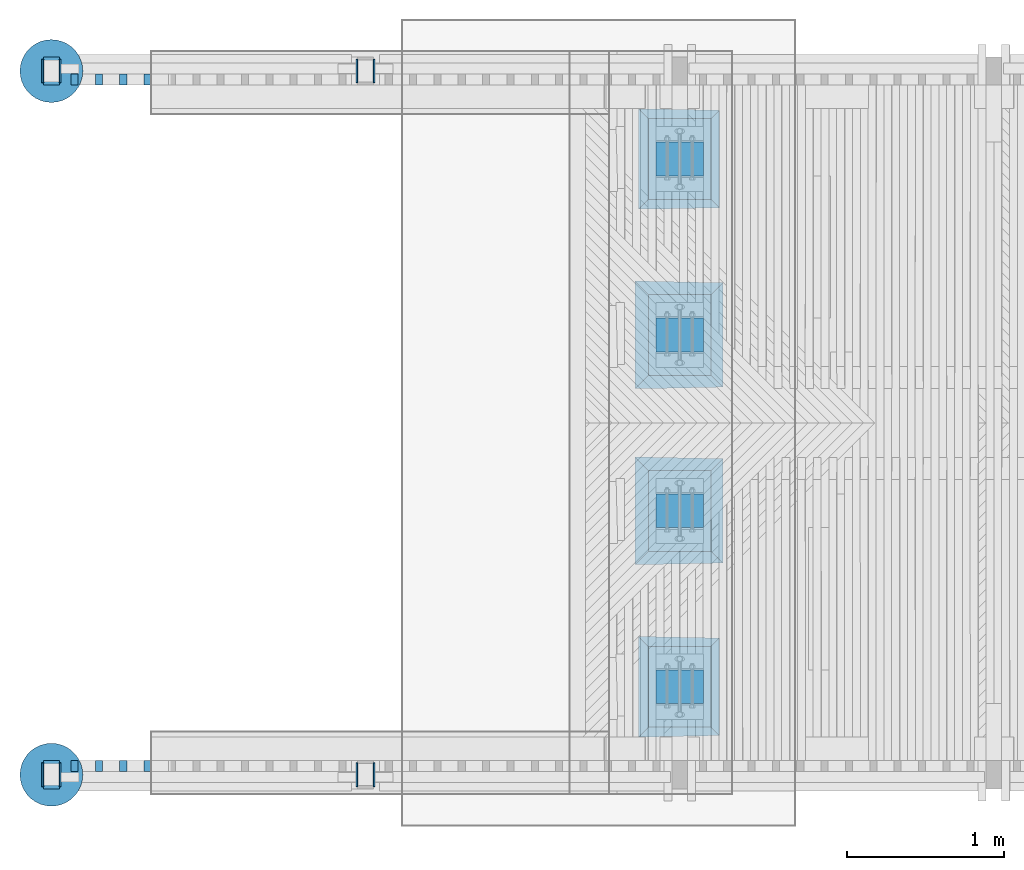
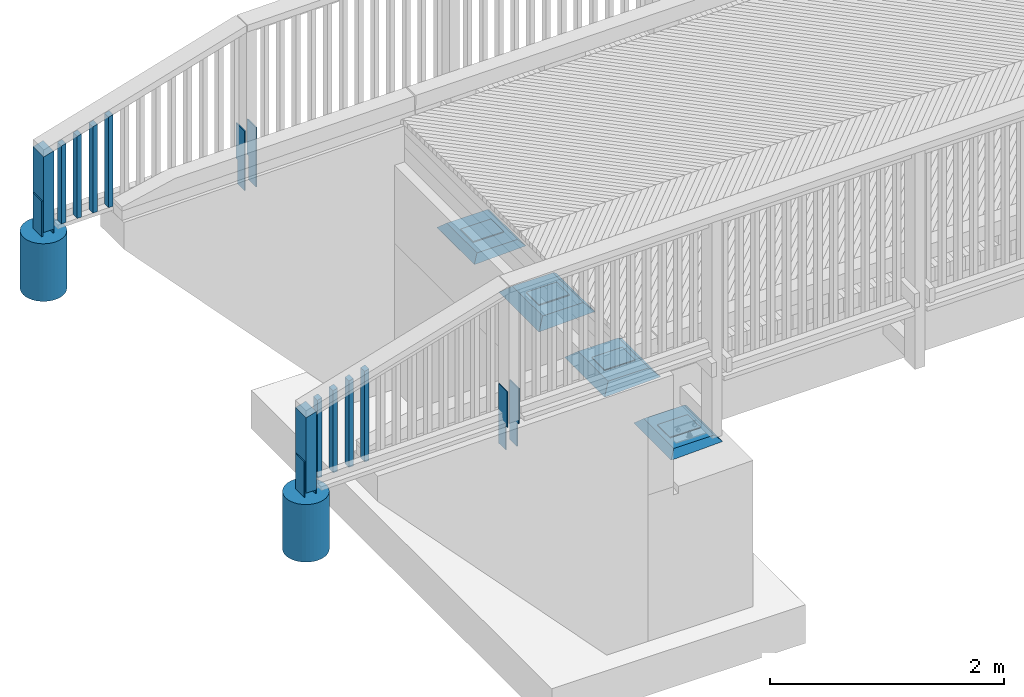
# One storey, part 12 of 52: 28 columns.
"""IFC2X3 building model written with IfcOpenShell, lengths in millimetres."""

import ifcopenshell
import ifcopenshell.guid

model = None  # the IFC model being written
_history = None  # IfcOwnerHistory: only IFC2X3 demands one
_inside = {}  # id of a spatial element -> (the spatial element, [elements in it])
_under = {}  # id of a project, library or spatial element -> (it, [spatial elements below it])
_declared = {}  # id of a project -> (the project, [libraries it declares])
_typed = {}  # id of a type object -> (the type object, [elements of that type])
_made_of = {}  # id of a material, layer set ... -> (it, [elements and type objects made of it])


def new_model(schema):
    """Start an empty IFC model of exactly this schema.

    Asked for "IFC4X3", IfcOpenShell would pick the latest addendum, in which some entities
    have other attributes; the version numbers below select the first issue.
    IFC2X3 requires an IfcOwnerHistory on every rooted entity: one is made here for all.
    """
    global model, _history
    if schema == "IFC4X3":
        model = ifcopenshell.file(schema_version=(4, 3, 0, 0))
    else:
        model = ifcopenshell.file(schema=schema)
    _inside.clear()
    _under.clear()
    _declared.clear()
    _typed.clear()
    _made_of.clear()
    _history = None
    if model.schema == "IFC2X3":
        org = make("IfcOrganization", Name="unknown")
        user = make(
            "IfcPersonAndOrganization",
            ThePerson=make("IfcPerson", FamilyName="unknown"),
            TheOrganization=org,
        )
        app = make(
            "IfcApplication",
            ApplicationDeveloper=org,
            Version="unknown",
            ApplicationFullName="unknown",
            ApplicationIdentifier="unknown",
        )
        _history = make(
            "IfcOwnerHistory",
            OwningUser=user,
            OwningApplication=app,
            ChangeAction="ADDED",
            CreationDate=0,
        )
    return model


def make(cls, **values):
    """One entity of the class cls with the attributes given. An attribute that is None is left unset."""
    return model.create_entity(
        cls, **{name: value for name, value in values.items() if value is not None}
    )


def rooted(cls, **values):
    """An entity with a GlobalId (a new one), such as an element, a storey or a relation."""
    return make(cls, GlobalId=ifcopenshell.guid.new(), OwnerHistory=_history, **values)


def si_unit(unit_type, name, prefix=None):
    """IfcSIUnit, for example si_unit("LENGTHUNIT", "METRE", prefix="MILLI")."""
    return make("IfcSIUnit", UnitType=unit_type, Prefix=prefix, Name=name)


def assignment(units):
    """IfcUnitAssignment: the units of a project."""
    return None if units is None else make("IfcUnitAssignment", Units=units)


def point(xyz):
    """IfcCartesianPoint."""
    return None if xyz is None else make("IfcCartesianPoint", Coordinates=xyz)


def direction(xyz):
    """IfcDirection."""
    return None if xyz is None else make("IfcDirection", DirectionRatios=xyz)


def frame(location, z_axis=None, x_axis=None):
    """IfcAxis2Placement3D, a coordinate frame: its origin and axes. An axis left out is left unset."""
    return make(
        "IfcAxis2Placement3D",
        Location=point(location),
        Axis=direction(z_axis),
        RefDirection=direction(x_axis),
    )


def origin_with_axes():
    """The frame at (0, 0, 0) with the z axis (0, 0, 1) and the x axis (1, 0, 0) written out."""
    return frame((0.0, 0.0, 0.0), z_axis=(0.0, 0.0, 1.0), x_axis=(1.0, 0.0, 0.0))


def place(relative_to, where):
    """IfcLocalPlacement: puts the frame where relative to a parent placement (None: the world)."""
    return make(
        "IfcLocalPlacement", PlacementRelTo=relative_to, RelativePlacement=where
    )


def context(
    kind, dimensions, precision=None, world=None, true_north=None, identifier=None
):
    """IfcGeometricRepresentationContext, for example the 3D "Model" context."""
    return make(
        "IfcGeometricRepresentationContext",
        ContextIdentifier=identifier,
        ContextType=kind,
        CoordinateSpaceDimension=dimensions,
        Precision=precision,
        WorldCoordinateSystem=world,
        TrueNorth=true_north,
    )


def subcontext(parent, identifier, kind, view, scale=None):
    """IfcGeometricRepresentationSubContext, for example "Body" below "Model"."""
    return make(
        "IfcGeometricRepresentationSubContext",
        ContextIdentifier=identifier,
        ContextType=kind,
        ParentContext=parent,
        TargetScale=scale,
        TargetView=view,
    )


def project(units=None, contexts=None):
    """IfcProject with its units and contexts."""
    return rooted(
        "IfcProject",
        Name="project",
        RepresentationContexts=contexts,
        UnitsInContext=assignment(units),
    )


def spatial(cls, under=None, at=None, **own):
    """A site, building, storey or space (cls), placed at a placement, below another one or the project."""
    s = rooted(cls, ObjectPlacement=at, **own)
    if under is not None:
        _under.setdefault(under.id(), (under, []))[1].append(s)
    return s


def faces_of(points, faces, orient=None, outer=None):
    """IfcFace entities. A face is a list of loops; a loop is a list of indices into points, from 0.

    orient and outer hold one flag for each loop. By default every Orientation is true, the
    first loop of a face is its IfcFaceOuterBound and the others are IfcFaceBound.
    """
    made = []
    for i, loops in enumerate(faces):
        bounds = []
        for j, loop in enumerate(loops):
            is_outer = j == 0 if outer is None else outer[i][j]
            bounds.append(
                make(
                    "IfcFaceOuterBound" if is_outer else "IfcFaceBound",
                    Bound=make("IfcPolyLoop", Polygon=[points[k] for k in loop]),
                    Orientation=True if orient is None else orient[i][j],
                )
            )
        made.append(make("IfcFace", Bounds=bounds))
    return made


def faceted_brep(points, faces, orient=None, outer=None, voids=None):
    """IfcFacetedBrep: a solid bounded by flat faces; with voids (closed shells), ...WithVoids."""
    shared = [point(p) for p in points]
    hull = make("IfcClosedShell", CfsFaces=faces_of(shared, faces, orient, outer))
    if voids is None:
        return make("IfcFacetedBrep", Outer=hull)
    return make(
        "IfcFacetedBrepWithVoids",
        Outer=hull,
        Voids=[
            make(cls, CfsFaces=faces_of(shared, fs, o, b)) for cls, fs, o, b in voids
        ],
    )


def shape(context_of_items, identifier, shape_type, items):
    """IfcShapeRepresentation: the items that make up one representation, for example the "Body"."""
    return make(
        "IfcShapeRepresentation",
        ContextOfItems=context_of_items,
        RepresentationIdentifier=identifier,
        RepresentationType=shape_type,
        Items=items,
    )


def material(Name=None, Category=None):
    """IfcMaterial."""
    return make("IfcMaterial", Name=Name, Category=Category)


def made_of(thing, what):
    """Note that an element or type object is made of a material, layer set ...; save() writes the relation."""
    if what is not None:
        _made_of.setdefault(what.id(), (what, []))[1].append(thing)
    return thing


def type_object(cls, material=None, **own):
    """A type object (cls), such as IfcWallType, which elements share."""
    return made_of(rooted(cls, **own), material)


def element(
    cls,
    number,
    at=None,
    inside=None,
    cuts=None,
    type_object=None,
    material=None,
    context=None,
    identifier="Body",
    shape_type=None,
    held_by="IfcProductDefinitionShape",
    body=None,
    shapes=None,
    **own,
):
    """One element of the class cls, such as IfcWall. Its Tag is "e" and its number.

    at: its placement. inside: the storey or other place that contains it. cuts: it is an
    opening in that element (IfcRelVoidsElement). A single representation is given by context,
    identifier, shape_type and body (its items); several are given by shapes. held_by: the class
    of the entity that holds the representations. save() writes the other relations.
    """
    e = rooted(cls, Tag="e%d" % number, ObjectPlacement=at, **own)
    if body is not None:
        shapes = [shape(context, identifier, shape_type, body)]
    if shapes is not None:
        e.Representation = make(held_by, Representations=shapes)
    if inside is not None:
        _inside.setdefault(inside.id(), (inside, []))[1].append(e)
    if cuts is not None:
        rooted(
            "IfcRelVoidsElement", RelatingBuildingElement=cuts, RelatedOpeningElement=e
        )
    if type_object is not None:
        _typed.setdefault(type_object.id(), (type_object, []))[1].append(e)
    return made_of(e, material)


def aggregate(whole, parts):
    """IfcRelAggregates: a whole, such as a stair, and the parts it consists of."""
    return rooted("IfcRelAggregates", RelatingObject=whole, RelatedObjects=parts)


def save(model, path):
    """Write the relations noted so far, then the file.

    IfcRelAggregates (storeys below a building ...), IfcRelContainedInSpatialStructure (elements
    in a storey), IfcRelDefinesByType, IfcRelAssociatesMaterial and IfcRelDeclares: one each for
    every whole, place, type object, material and project.
    """
    for whole, parts in _under.values():
        aggregate(whole, parts)
    for where, things in _inside.values():
        rooted(
            "IfcRelContainedInSpatialStructure",
            RelatedElements=things,
            RelatingStructure=where,
        )
    for kind, things in _typed.values():
        rooted("IfcRelDefinesByType", RelatedObjects=things, RelatingType=kind)
    for what, things in _made_of.values():
        rooted("IfcRelAssociatesMaterial", RelatedObjects=things, RelatingMaterial=what)
    for by, libraries in _declared.values():
        rooted("IfcRelDeclares", RelatingContext=by, RelatedDefinitions=libraries)
    model.write(path)


model = new_model("IFC2X3")

# Units and contexts
model_context = context("Model", 3, precision=1e-05, world=origin_with_axes())
body_context = subcontext(model_context, "Body", "Model", "MODEL_VIEW")
ifc_project = project(units=[si_unit("LENGTHUNIT", "METRE", prefix="MILLI"), si_unit("AREAUNIT", "SQUARE_METRE"), si_unit("VOLUMEUNIT", "CUBIC_METRE"), si_unit("MASSUNIT", "GRAM", prefix="KILO"), si_unit("TIMEUNIT", "SECOND"), si_unit("PLANEANGLEUNIT", "RADIAN"), si_unit("SOLIDANGLEUNIT", "STERADIAN"), si_unit("THERMODYNAMICTEMPERATUREUNIT", "DEGREE_CELSIUS"), si_unit("LUMINOUSINTENSITYUNIT", "LUMEN")], contexts=[model_context])

# Site, building, storey
site_placement = place(None, origin_with_axes())
site = spatial("IfcSite", under=ifc_project, at=site_placement, Name="Undefined", CompositionType="ELEMENT")
building_placement = place(site_placement, origin_with_axes())
building = spatial("IfcBuilding", under=site, at=building_placement, Name="Undefined", CompositionType="ELEMENT")
storey_placement = place(building_placement, origin_with_axes())
storey = spatial("IfcBuildingStorey", under=building, at=storey_placement, Name="Undefined", CompositionType="ELEMENT", Elevation=0.0)

# Columns
ifc_material_1 = material(Name="STEEL/AISI316")
column_type_1 = type_object("IfcColumnType", Name="PL150*10", PredefinedType="NOTDEFINED")
for number, where, z_axis, x_axis in (
    (1, (-3944.99999987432, 4605.00000000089, 2794.56000000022), (0.0, -1.0, 0.0), (0.0, 0.0, 1.0)),
    (2, (-1944.99999987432, 4605.00000000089, 2822.67000000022), (0.0, -1.0, 0.0), (0.0, 0.0, 1.0)),
    (3, (-4054.99999987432, 4605.00000000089, 2794.56000000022), (0.0, -1.0, 0.0), (0.0, 0.0, 1.0)),
    (4, (-2054.99999987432, 4605.00000000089, 2822.67000000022), (0.0, -1.0, 0.0), (0.0, 0.0, 1.0)),
):
    element("IfcColumn", number, at=place(storey_placement, frame(where, z_axis=z_axis, x_axis=x_axis)), inside=storey, type_object=column_type_1, material=ifc_material_1, Name="KAIDEPYLVÄS", ObjectType="PL150*10", context=body_context, shape_type="Brep", body=[
        faceted_brep([(0.0, -5.0, -50.0), (0.0, 5.0, -50.0), (250.0, 5.0, -50.0000000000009), (250.0, -5.0, -50.0000000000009), (250.0, -5.0, -75.0), (250.0, 5.0, -75.0), (0.0, 5.0, 75.0), (0.0, -5.0, 75.0), (620.0, -5.0, 75.0), (620.0, 5.0, 75.0), (620.0, -5.0, -75.0), (620.0, 5.0, -75.0)], [[[0, 1, 2, 3]], [[4, 3, 2, 5]], [[6, 7, 8, 9]], [[8, 10, 11, 9]], [[11, 10, 4, 5]], [[1, 6, 9, 11, 5, 2]], [[7, 6, 1, 0]], [[10, 8, 7, 0, 3, 4]]]),
    ])
for number, where, z_axis, x_axis in (
    (5, (-3944.99999987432, 125.0, 2794.56000000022), (0.0, 1.0, 0.0), (0.0, 0.0, 1.0)),
    (6, (-4054.99999987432, 125.0, 2794.56000000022), (0.0, 1.0, 0.0), (0.0, 0.0, 1.0)),
    (7, (-1944.99999987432, 125.0, 2822.67000000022), (0.0, 1.0, 0.0), (0.0, 0.0, 1.0)),
    (8, (-2054.99999987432, 125.0, 2822.67000000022), (0.0, 1.0, 0.0), (0.0, 0.0, 1.0)),
):
    element("IfcColumn", number, at=place(storey_placement, frame(where, z_axis=z_axis, x_axis=x_axis)), inside=storey, type_object=column_type_1, material=ifc_material_1, Name="KAIDEPYLVÄS", ObjectType="PL150*10", context=body_context, shape_type="Brep", body=[
        faceted_brep([(0.0, -5.0, -50.0), (0.0, 5.0, -50.0), (250.0, 5.0, -50.0000000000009), (250.0, -5.0, -50.0000000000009), (250.0, -5.0, -75.0), (250.0, 5.0, -75.0), (620.0, -5.0, 75.0), (620.0, -5.0, -75.0), (620.0, 5.0, -75.0), (620.0, 5.0, 75.0), (0.0, 5.0, 75.0), (0.0, -5.0, 75.0)], [[[0, 1, 2, 3]], [[4, 3, 2, 5]], [[6, 7, 8, 9]], [[10, 11, 6, 9]], [[11, 10, 1, 0]], [[7, 6, 11, 0, 3, 4]], [[8, 7, 4, 5]], [[1, 10, 9, 8, 5, 2]]]),
    ])
ifc_material_2 = material(Name="TIMBER/Timber_Undefined")
column_type_2 = type_object("IfcColumnType", Name="180*100", PredefinedType="NOTDEFINED")
column_1_placement = place(storey_placement, frame((-3999.99999924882, 4604.98790809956, 3109.68000000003), z_axis=(0.0, -1.0, 0.0), x_axis=(0.0, 0.0, 1.0)))
element("IfcColumn", 9, at=column_1_placement, inside=storey, type_object=column_type_2, material=ifc_material_2, Name="KAIDEPYLVÄS", ObjectType="180*100", context=body_context, shape_type="Brep", body=[
    faceted_brep([(-15.1200000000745, 50.0, -90.0), (-15.1200000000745, 50.0, 90.0), (771.050236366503, 50.0, 90.0), (771.050236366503, 50.0, -90.0), (-15.1200000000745, -50.0, 90.0), (800.720209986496, -50.0, 90.0), (-15.1200000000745, -50.0, -90.0), (800.720209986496, -50.0, -90.0)], [[[0, 1, 2, 3]], [[1, 4, 5, 2]], [[4, 6, 7, 5]], [[6, 0, 3, 7]], [[5, 7, 3, 2]], [[6, 4, 1, 0]]]),
])
column_2_placement = place(storey_placement, frame((-3999.99999924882, 125.01209190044, 3109.68000000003), z_axis=(0.0, 1.0, 0.0), x_axis=(0.0, 0.0, 1.0)))
element("IfcColumn", 10, at=column_2_placement, inside=storey, type_object=column_type_2, material=ifc_material_2, Name="KAIDEPYLVÄS", ObjectType="180*100", context=body_context, shape_type="Brep", body=[
    faceted_brep([(-15.1200000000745, 50.0, -90.0), (-15.1200000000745, 50.0, 90.0), (800.720209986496, 50.0, 90.0), (800.720209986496, 50.0, -90.0), (-15.1200000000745, -50.0, 90.0), (771.050236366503, -50.0, 90.0), (-15.1200000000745, -50.0, -90.0), (771.050236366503, -50.0, -90.0)], [[[0, 1, 2, 3]], [[1, 4, 5, 2]], [[4, 6, 7, 5]], [[6, 0, 3, 7]], [[5, 7, 3, 2]], [[6, 4, 1, 0]]]),
])
ifc_material_3 = material(Name="CONCRETE/Concrete_Undefined")
column_type_3 = type_object("IfcColumnType", Name="D400", PredefinedType="NOTDEFINED")
column_3_placement = place(storey_placement, frame((-3999.99999953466, 4604.98582702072, 2444.55999999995), z_axis=(-1.0, 0.0, 0.0), x_axis=(0.0, 0.0, 1.0)))
element("IfcColumn", 11, at=column_3_placement, inside=storey, type_object=column_type_3, material=ifc_material_3, Name="COLUMN", ObjectType="D400", context=body_context, shape_type="Brep", body=[
    faceted_brep([(0.0, -200.0, 0.0), (0.0, -196.961550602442, -34.7296355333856), (600.0, -196.961550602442, -34.7296355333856), (600.0, -200.0, 0.0), (0.0, -187.938524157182, -68.4040286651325), (600.0, -187.938524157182, -68.4040286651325), (0.0, -173.205080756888, -100.0), (600.0, -173.205080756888, -100.0), (0.0, -153.208888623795, -128.55752193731), (600.0, -153.208888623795, -128.55752193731), (0.0, -128.557521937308, -153.208888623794), (600.0, -128.557521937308, -153.208888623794), (0.0, -100.0, -173.205080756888), (600.0, -100.0, -173.205080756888), (0.0, -68.4040286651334, -187.93852415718), (600.0, -68.4040286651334, -187.93852415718), (0.0, -34.7296355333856, -196.961550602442), (600.0, -34.7296355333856, -196.961550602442), (0.0, 0.0, -200.0), (600.0, 0.0, -200.0), (0.0, 34.7296355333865, -196.961550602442), (600.0, 34.7296355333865, -196.961550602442), (0.0, 68.4040286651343, -187.93852415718), (600.0, 68.4040286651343, -187.93852415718), (0.0, 100.0, -173.205080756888), (600.0, 100.0, -173.205080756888), (0.0, 128.557521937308, -153.208888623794), (600.0, 128.557521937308, -153.208888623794), (0.0, 153.208888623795, -128.55752193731), (600.0, 153.208888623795, -128.55752193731), (0.0, 173.205080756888, -100.0), (600.0, 173.205080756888, -100.0), (0.0, 187.938524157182, -68.4040286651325), (600.0, 187.938524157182, -68.4040286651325), (0.0, 196.961550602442, -34.7296355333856), (600.0, 196.961550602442, -34.7296355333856), (0.0, 200.0, 0.0), (600.0, 200.0, 0.0), (0.0, 196.961550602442, 34.7296355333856), (600.0, 196.961550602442, 34.7296355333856), (0.0, 187.938524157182, 68.4040286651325), (600.0, 187.938524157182, 68.4040286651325), (0.0, 173.205080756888, 100.0), (600.0, 173.205080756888, 100.0), (0.0, 153.208888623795, 128.55752193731), (600.0, 153.208888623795, 128.55752193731), (0.0, 128.557521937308, 153.208888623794), (600.0, 128.557521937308, 153.208888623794), (0.0, 100.0, 173.205080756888), (600.0, 100.0, 173.205080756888), (0.0, 68.4040286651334, 187.93852415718), (600.0, 68.4040286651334, 187.93852415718), (0.0, 34.7296355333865, 196.961550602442), (600.0, 34.7296355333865, 196.961550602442), (0.0, 0.0, 200.0), (600.0, 0.0, 200.0), (0.0, -34.7296355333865, 196.961550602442), (600.0, -34.7296355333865, 196.961550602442), (0.0, -68.4040286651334, 187.93852415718), (600.0, -68.4040286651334, 187.93852415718), (0.0, -100.0, 173.205080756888), (600.0, -100.0, 173.205080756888), (0.0, -128.557521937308, 153.208888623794), (600.0, -128.557521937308, 153.208888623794), (0.0, -153.208888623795, 128.55752193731), (600.0, -153.208888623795, 128.55752193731), (0.0, -173.205080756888, 100.0), (600.0, -173.205080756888, 100.0), (0.0, -187.938524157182, 68.4040286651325), (600.0, -187.938524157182, 68.4040286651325), (0.0, -196.961550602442, 34.7296355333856), (600.0, -196.961550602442, 34.7296355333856)], [[[0, 1, 2, 3]], [[1, 4, 5, 2]], [[4, 6, 7, 5]], [[6, 8, 9, 7]], [[8, 10, 11, 9]], [[10, 12, 13, 11]], [[12, 14, 15, 13]], [[14, 16, 17, 15]], [[16, 18, 19, 17]], [[18, 20, 21, 19]], [[20, 22, 23, 21]], [[22, 24, 25, 23]], [[24, 26, 27, 25]], [[26, 28, 29, 27]], [[28, 30, 31, 29]], [[30, 32, 33, 31]], [[32, 34, 35, 33]], [[34, 36, 37, 35]], [[36, 38, 39, 37]], [[38, 40, 41, 39]], [[40, 42, 43, 41]], [[42, 44, 45, 43]], [[44, 46, 47, 45]], [[46, 48, 49, 47]], [[48, 50, 51, 49]], [[50, 52, 53, 51]], [[52, 54, 55, 53]], [[54, 56, 57, 55]], [[56, 58, 59, 57]], [[58, 60, 61, 59]], [[60, 62, 63, 61]], [[62, 64, 65, 63]], [[64, 66, 67, 65]], [[66, 68, 69, 67]], [[68, 70, 71, 69]], [[70, 0, 3, 71]], [[5, 7, 9, 11, 13, 15, 17, 19, 21, 23, 25, 27, 29, 31, 33, 35, 37, 39, 41, 43, 45, 47, 49, 51, 53, 55, 57, 59, 61, 63, 65, 67, 69, 71, 3, 2]], [[70, 68, 66, 64, 62, 60, 58, 56, 54, 52, 50, 48, 46, 44, 42, 40, 38, 36, 34, 32, 30, 28, 26, 24, 22, 20, 18, 16, 14, 12, 10, 8, 6, 4, 1, 0]]]),
])
column_4_placement = place(storey_placement, frame((-3999.99999953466, 125.014172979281, 2444.55999999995), z_axis=(-1.0, 0.0, 0.0), x_axis=(0.0, 0.0, 1.0)))
element("IfcColumn", 12, at=column_4_placement, inside=storey, type_object=column_type_3, material=ifc_material_3, Name="COLUMN", ObjectType="D400", context=body_context, shape_type="Brep", body=[
    faceted_brep([(0.0, -200.0, 0.0), (0.0, -196.961550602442, -34.7296355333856), (600.0, -196.961550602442, -34.7296355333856), (600.0, -200.0, 0.0), (0.0, -187.938524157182, -68.4040286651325), (600.0, -187.938524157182, -68.4040286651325), (0.0, -173.205080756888, -100.0), (600.0, -173.205080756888, -100.0), (0.0, -153.208888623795, -128.55752193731), (600.0, -153.208888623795, -128.55752193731), (0.0, -128.557521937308, -153.208888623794), (600.0, -128.557521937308, -153.208888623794), (0.0, -100.0, -173.205080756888), (600.0, -100.0, -173.205080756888), (0.0, -68.4040286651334, -187.93852415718), (600.0, -68.4040286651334, -187.93852415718), (0.0, -34.7296355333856, -196.961550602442), (600.0, -34.7296355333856, -196.961550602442), (0.0, 0.0, -200.0), (600.0, 0.0, -200.0), (0.0, 34.7296355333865, -196.961550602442), (600.0, 34.7296355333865, -196.961550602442), (0.0, 68.4040286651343, -187.93852415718), (600.0, 68.4040286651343, -187.93852415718), (0.0, 100.0, -173.205080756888), (600.0, 100.0, -173.205080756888), (0.0, 128.557521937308, -153.208888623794), (600.0, 128.557521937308, -153.208888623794), (0.0, 153.208888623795, -128.55752193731), (600.0, 153.208888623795, -128.55752193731), (0.0, 173.205080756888, -100.0), (600.0, 173.205080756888, -100.0), (0.0, 187.938524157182, -68.4040286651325), (600.0, 187.938524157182, -68.4040286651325), (0.0, 196.961550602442, -34.7296355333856), (600.0, 196.961550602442, -34.7296355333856), (0.0, 200.0, 0.0), (600.0, 200.0, 0.0), (0.0, 196.961550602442, 34.7296355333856), (600.0, 196.961550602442, 34.7296355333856), (0.0, 187.938524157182, 68.4040286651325), (600.0, 187.938524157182, 68.4040286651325), (0.0, 173.205080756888, 100.0), (600.0, 173.205080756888, 100.0), (0.0, 153.208888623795, 128.55752193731), (600.0, 153.208888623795, 128.55752193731), (0.0, 128.557521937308, 153.208888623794), (600.0, 128.557521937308, 153.208888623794), (0.0, 100.0, 173.205080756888), (600.0, 100.0, 173.205080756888), (0.0, 68.4040286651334, 187.93852415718), (600.0, 68.4040286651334, 187.93852415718), (0.0, 34.7296355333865, 196.961550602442), (600.0, 34.7296355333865, 196.961550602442), (0.0, 0.0, 200.0), (600.0, 0.0, 200.0), (0.0, -34.7296355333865, 196.961550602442), (600.0, -34.7296355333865, 196.961550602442), (0.0, -68.4040286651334, 187.93852415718), (600.0, -68.4040286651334, 187.93852415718), (0.0, -100.0, 173.205080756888), (600.0, -100.0, 173.205080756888), (0.0, -128.557521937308, 153.208888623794), (600.0, -128.557521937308, 153.208888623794), (0.0, -153.208888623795, 128.55752193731), (600.0, -153.208888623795, 128.55752193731), (0.0, -173.205080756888, 100.0), (600.0, -173.205080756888, 100.0), (0.0, -187.938524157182, 68.4040286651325), (600.0, -187.938524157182, 68.4040286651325), (0.0, -196.961550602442, 34.7296355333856), (600.0, -196.961550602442, 34.7296355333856)], [[[0, 1, 2, 3]], [[1, 4, 5, 2]], [[4, 6, 7, 5]], [[6, 8, 9, 7]], [[8, 10, 11, 9]], [[10, 12, 13, 11]], [[12, 14, 15, 13]], [[14, 16, 17, 15]], [[16, 18, 19, 17]], [[18, 20, 21, 19]], [[20, 22, 23, 21]], [[22, 24, 25, 23]], [[24, 26, 27, 25]], [[26, 28, 29, 27]], [[28, 30, 31, 29]], [[30, 32, 33, 31]], [[32, 34, 35, 33]], [[34, 36, 37, 35]], [[36, 38, 39, 37]], [[38, 40, 41, 39]], [[40, 42, 43, 41]], [[42, 44, 45, 43]], [[44, 46, 47, 45]], [[46, 48, 49, 47]], [[48, 50, 51, 49]], [[50, 52, 53, 51]], [[52, 54, 55, 53]], [[54, 56, 57, 55]], [[56, 58, 59, 57]], [[58, 60, 61, 59]], [[60, 62, 63, 61]], [[62, 64, 65, 63]], [[64, 66, 67, 65]], [[66, 68, 69, 67]], [[68, 70, 71, 69]], [[70, 0, 3, 71]], [[5, 7, 9, 11, 13, 15, 17, 19, 21, 23, 25, 27, 29, 31, 33, 35, 37, 39, 41, 43, 45, 47, 49, 51, 53, 55, 57, 59, 61, 63, 65, 67, 69, 71, 3, 2]], [[70, 68, 66, 64, 62, 60, 58, 56, 54, 52, 50, 48, 46, 44, 42, 40, 38, 36, 34, 32, 30, 28, 26, 24, 22, 20, 18, 16, 14, 12, 10, 8, 6, 4, 1, 0]]]),
])
column_type_4 = type_object("IfcColumnType", Name="70*45", PredefinedType="NOTDEFINED")
column_5_placement = place(storey_placement, frame((-3387.49999924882, 4549.98790809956, 3079.15), z_axis=(0.0, 1.0, 0.0), x_axis=(0.0, 0.0, 1.0)))
element("IfcColumn", 13, at=column_5_placement, inside=storey, type_object=column_type_4, material=ifc_material_2, Name="BEAM", ObjectType="70*45", context=body_context, shape_type="Brep", body=[
    faceted_brep([(50.5074580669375, 22.5, -35.0), (50.5074580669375, 22.5, 35.0), (1005.72400020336, 22.5, 35.0), (1005.72400020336, 22.5, -35.0), (49.8204606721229, -22.5, 35.0), (992.288494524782, -22.5, 35.0), (49.8204606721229, -22.5, -35.0), (992.288494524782, -22.5, -35.0)], [[[0, 1, 2, 3]], [[1, 4, 5, 2]], [[4, 6, 7, 5]], [[6, 0, 3, 7]], [[5, 7, 3, 2]], [[6, 4, 1, 0]]]),
])
column_6_placement = place(storey_placement, frame((-3542.49999924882, 4549.98790809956, 3079.15), z_axis=(0.0, 1.0, 0.0), x_axis=(0.0, 0.0, 1.0)))
element("IfcColumn", 14, at=column_6_placement, inside=storey, type_object=column_type_4, material=ifc_material_2, Name="BEAM", ObjectType="70*45", context=body_context, shape_type="Brep", body=[
    faceted_brep([(48.1411337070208, 22.5, -35.0), (48.1411337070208, 22.5, 35.0), (959.446147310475, 22.5, 35.0), (959.446147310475, 22.5, -35.0), (47.4541363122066, -22.5, 35.0), (946.010641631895, -22.5, 35.0), (47.4541363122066, -22.5, -35.0), (946.010641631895, -22.5, -35.0)], [[[0, 1, 2, 3]], [[1, 4, 5, 2]], [[4, 6, 7, 5]], [[6, 0, 3, 7]], [[5, 7, 3, 2]], [[6, 4, 1, 0]]]),
])
column_7_placement = place(storey_placement, frame((-3697.49999924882, 4549.98790809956, 3079.15), z_axis=(0.0, 1.0, 0.0), x_axis=(0.0, 0.0, 1.0)))
element("IfcColumn", 15, at=column_7_placement, inside=storey, type_object=column_type_4, material=ifc_material_2, Name="BEAM", ObjectType="70*45", context=body_context, shape_type="Brep", body=[
    faceted_brep([(45.7748093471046, 22.5, -35.0), (45.7748093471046, 22.5, 35.0), (913.168294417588, 22.5, 35.0), (913.168294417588, 22.5, -35.0), (45.0878119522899, -22.5, 35.0), (899.732788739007, -22.5, 35.0), (45.0878119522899, -22.5, -35.0), (899.732788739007, -22.5, -35.0)], [[[0, 1, 2, 3]], [[1, 4, 5, 2]], [[4, 6, 7, 5]], [[6, 0, 3, 7]], [[5, 7, 3, 2]], [[6, 4, 1, 0]]]),
])
column_8_placement = place(storey_placement, frame((-3852.49999924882, 4549.98790809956, 3079.15), z_axis=(0.0, 1.0, 0.0), x_axis=(0.0, 0.0, 1.0)))
element("IfcColumn", 16, at=column_8_placement, inside=storey, type_object=column_type_4, material=ifc_material_2, Name="BEAM", ObjectType="70*45", context=body_context, shape_type="Brep", body=[
    faceted_brep([(43.4084849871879, 22.5, -35.0), (43.4084849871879, 22.5, 35.0), (866.8904415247, 22.5, 35.0), (866.8904415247, 22.5, -35.0), (42.7214875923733, -22.5, 35.0), (853.45493584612, -22.5, 35.0), (42.7214875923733, -22.5, -35.0), (853.45493584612, -22.5, -35.0)], [[[0, 1, 2, 3]], [[1, 4, 5, 2]], [[4, 6, 7, 5]], [[6, 0, 3, 7]], [[5, 7, 3, 2]], [[6, 4, 1, 0]]]),
])
column_9_placement = place(storey_placement, frame((-3387.49999924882, 180.01209190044, 3079.15), z_axis=(0.0, -1.0, 0.0), x_axis=(0.0, 0.0, 1.0)))
element("IfcColumn", 17, at=column_9_placement, inside=storey, type_object=column_type_4, material=ifc_material_2, Name="BEAM", ObjectType="70*45", context=body_context, shape_type="Brep", body=[
    faceted_brep([(49.8204606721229, 22.5, -35.0), (49.8204606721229, 22.5, 35.0), (992.288494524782, 22.5, 35.0), (992.288494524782, 22.5, -35.0), (50.5074580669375, -22.5, 35.0), (1005.72400020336, -22.5, 35.0), (50.5074580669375, -22.5, -35.0), (1005.72400020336, -22.5, -35.0)], [[[0, 1, 2, 3]], [[1, 4, 5, 2]], [[4, 6, 7, 5]], [[6, 0, 3, 7]], [[5, 7, 3, 2]], [[6, 4, 1, 0]]]),
])
column_10_placement = place(storey_placement, frame((-3542.49999924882, 180.01209190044, 3079.15), z_axis=(0.0, -1.0, 0.0), x_axis=(0.0, 0.0, 1.0)))
element("IfcColumn", 18, at=column_10_placement, inside=storey, type_object=column_type_4, material=ifc_material_2, Name="BEAM", ObjectType="70*45", context=body_context, shape_type="Brep", body=[
    faceted_brep([(47.4541363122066, 22.5, -35.0), (47.4541363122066, 22.5, 35.0), (946.010641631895, 22.5, 35.0), (946.010641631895, 22.5, -35.0), (48.1411337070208, -22.5, 35.0), (959.446147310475, -22.5, 35.0), (48.1411337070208, -22.5, -35.0), (959.446147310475, -22.5, -35.0)], [[[0, 1, 2, 3]], [[1, 4, 5, 2]], [[4, 6, 7, 5]], [[6, 0, 3, 7]], [[5, 7, 3, 2]], [[6, 4, 1, 0]]]),
])
column_11_placement = place(storey_placement, frame((-3697.49999924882, 180.01209190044, 3079.15), z_axis=(0.0, -1.0, 0.0), x_axis=(0.0, 0.0, 1.0)))
element("IfcColumn", 19, at=column_11_placement, inside=storey, type_object=column_type_4, material=ifc_material_2, Name="BEAM", ObjectType="70*45", context=body_context, shape_type="Brep", body=[
    faceted_brep([(45.0878119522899, 22.5, -35.0), (45.0878119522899, 22.5, 35.0), (899.732788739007, 22.5, 35.0), (899.732788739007, 22.5, -35.0), (45.7748093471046, -22.5, 35.0), (913.168294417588, -22.5, 35.0), (45.7748093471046, -22.5, -35.0), (913.168294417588, -22.5, -35.0)], [[[0, 1, 2, 3]], [[1, 4, 5, 2]], [[4, 6, 7, 5]], [[6, 0, 3, 7]], [[5, 7, 3, 2]], [[6, 4, 1, 0]]]),
])
column_12_placement = place(storey_placement, frame((-3852.49999924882, 180.01209190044, 3079.15), z_axis=(0.0, -1.0, 0.0), x_axis=(0.0, 0.0, 1.0)))
element("IfcColumn", 20, at=column_12_placement, inside=storey, type_object=column_type_4, material=ifc_material_2, Name="BEAM", ObjectType="70*45", context=body_context, shape_type="Brep", body=[
    faceted_brep([(42.7214875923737, 22.5, -35.0), (42.7214875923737, 22.5, 35.0), (853.45493584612, 22.5, 35.0), (853.45493584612, 22.5, -35.0), (43.4084849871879, -22.5, 35.0), (866.8904415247, -22.5, 35.0), (43.4084849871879, -22.5, -35.0), (866.8904415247, -22.5, -35.0)], [[[0, 1, 2, 3]], [[1, 4, 5, 2]], [[4, 6, 7, 5]], [[6, 0, 3, 7]], [[5, 7, 3, 2]], [[6, 4, 1, 0]]]),
])
column_type_5 = type_object("IfcColumnType", Name="570*685", PredefinedType="NOTDEFINED")
for number, where, z_axis, x_axis, name in (
    (21, (0.0, 2925.00000000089, 1922.0), (-1.0, 0.0, 0.0), (0.0, 0.0, 1.0), "COLUMN"),
    (22, (0.0, 1805.0, 1922.0), (-1.0, 0.0, 0.0), (0.0, 0.0, 1.0), "COLUMN"),
):
    element("IfcColumn", number, at=place(storey_placement, frame(where, z_axis=z_axis, x_axis=x_axis)), inside=storey, type_object=column_type_5, material=ifc_material_3, Name=name, ObjectType="570*685", context=body_context, shape_type="Brep", body=[
        faceted_brep([(-9.52281374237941, -342.5, 285.0), (75.3299999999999, -257.647186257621, 200.147186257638), (75.3299999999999, 257.647186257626, 200.147186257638), (-9.52281374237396, 342.5, 285.0), (0.770343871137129, -332.206842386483, -274.706842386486), (-9.52281374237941, -342.5, 229.657872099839), (-10.6522449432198, -342.5, 285.0), (-10.6522449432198, 342.5, 285.0), (-9.52281374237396, 342.5, 229.657872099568), (0.770343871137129, 332.206842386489, -274.706842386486), (75.3299999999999, -257.647186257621, -200.147186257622), (75.3299999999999, 257.647186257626, -200.147186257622)], [[[0, 1, 2, 3]], [[4, 5, 6, 7, 8, 9]], [[10, 4, 9, 11]], [[10, 11, 2, 1]], [[5, 4, 10, 1, 0]], [[6, 5, 0]], [[7, 6, 0, 3]], [[7, 3, 8]], [[11, 9, 8, 3, 2]]]),
    ])
column_type_6 = type_object("IfcColumnType", Name="524*639", PredefinedType="NOTDEFINED")
for number, where, z_axis, x_axis, name in (
    (23, (0.0, 4045.00000000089, 1900.0), (-1.0, 0.0, 0.0), (0.0, 0.0, 1.0), "COLUMN"),
    (24, (0.0, 685.0, 1900.0), (-1.0, 0.0, 0.0), (0.0, 0.0, 1.0), "COLUMN"),
):
    element("IfcColumn", number, at=place(storey_placement, frame(where, z_axis=z_axis, x_axis=x_axis)), inside=storey, type_object=column_type_6, material=ifc_material_3, Name=name, ObjectType="524*639", context=body_context, shape_type="Brep", body=[
        faceted_brep([(13.1046032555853, -319.5, 262.0), (75.3299999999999, -257.274603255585, 199.774603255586), (75.3299999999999, 257.274603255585, 199.774603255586), (13.1046032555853, 319.5, 262.0), (22.3220922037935, -310.282511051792, -252.782511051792), (13.1046032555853, -319.5, 198.87443973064), (11.816326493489, -319.5, 262.0), (11.816326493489, 319.5, 262.0), (13.1046032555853, 319.5, 198.874439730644), (22.3220922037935, 310.282511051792, -252.782511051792), (75.3299999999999, -257.274603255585, -199.774603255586), (75.3299999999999, 257.274603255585, -199.774603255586)], [[[0, 1, 2, 3]], [[4, 5, 6, 7, 8, 9]], [[10, 4, 9, 11]], [[10, 11, 2, 1]], [[5, 4, 10, 1, 0]], [[6, 5, 0]], [[7, 6, 0, 3]], [[7, 3, 8]], [[11, 9, 8, 3, 2]]]),
    ])
ifc_material_4 = material(Name="MISCELLANEOUS/NEOPREENI")
column_type_7 = type_object("IfcColumnType", Name="PL300*215", PredefinedType="NOTDEFINED")
for number, where, z_axis, x_axis, name in (
    (25, (0.0, 4045.0, 1975.33), (-1.0, 0.0, 0.0), (0.0, 0.0, 1.0), "COLUMN"),
    (26, (0.0, 2925.0, 1997.33), (-1.0, 0.0, 0.0), (0.0, 0.0, 1.0), "COLUMN"),
    (27, (0.0, 1805.0, 1997.33), (-1.0, 0.0, 0.0), (0.0, 0.0, 1.0), "COLUMN"),
    (28, (0.0, 685.0, 1975.33), (-1.0, 0.0, 0.0), (0.0, 0.0, 1.0), "COLUMN"),
):
    element("IfcColumn", number, at=place(storey_placement, frame(where, z_axis=z_axis, x_axis=x_axis)), inside=storey, type_object=column_type_7, material=ifc_material_4, Name=name, ObjectType="PL300*215", context=body_context, shape_type="Brep", body=[
        faceted_brep([(0.0, 107.5, -150.0), (0.0, 107.5, 150.0), (10.0, 107.5, 150.0), (10.0, 107.5, -150.0), (0.0, -107.5, 150.0), (10.0, -107.5, 150.0), (0.0, -107.5, -150.0), (10.0, -107.5, -150.0)], [[[0, 1, 2, 3]], [[1, 4, 5, 2]], [[4, 6, 7, 5]], [[6, 0, 3, 7]], [[5, 7, 3, 2]], [[6, 4, 1, 0]]]),
    ])

save(model, "model.ifc")
